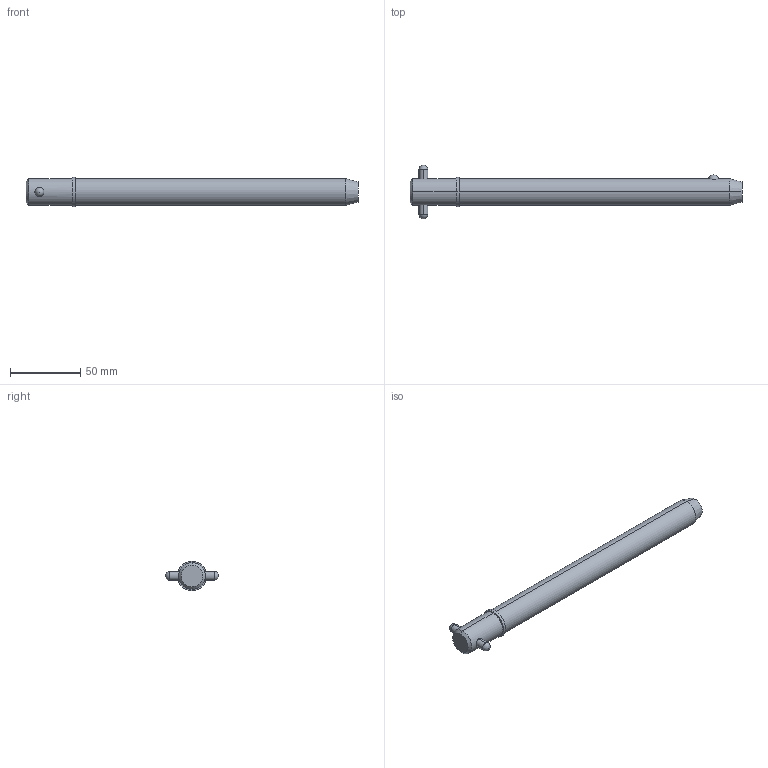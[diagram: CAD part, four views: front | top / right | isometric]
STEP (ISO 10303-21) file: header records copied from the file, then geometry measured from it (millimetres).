
FILE_DESCRIPTION (( 'STEP AP203' ), '1' );
FILE_NAME ('33018.W7570.step', '2024-11-19T17:21:26', ( '' ), ( '' ), 'SwSTEP 2.0', 'SolidWorks 2019', '' );
FILE_SCHEMA (( 'CONFIG_CONTROL_DESIGN' ));
Length unit declared in the file: millimetre
Products named in the file (3): 33018.W7570; Part1_33018.W7570; Part2_33018.W7570
Assembly tree (2 placements, depth 2):
  33018.W7570
    Part1_33018.W7570
    Part2_33018.W7570
Bounding box: 236.53 x 38.1 x 20.95 mm (x, y, z)
Volume: 67462.7 mm3; surface area: 15704.1 mm2
Topology: 2 solids, 2 shells, 22 faces, 47 edges, 30 vertices
Faces by surface type: cylinder 10, sphere 4, cone 4, plane 4
Entity records: 1041 total; most frequent: CARTESIAN_POINT 284, DIRECTION 110, ORIENTED_EDGE 82, AXIS2_PLACEMENT_3D 48, EDGE_CURVE 41, EDGE_LOOP 27, PERSON_AND_ORGANIZATION 26, VERTEX_POINT 26
